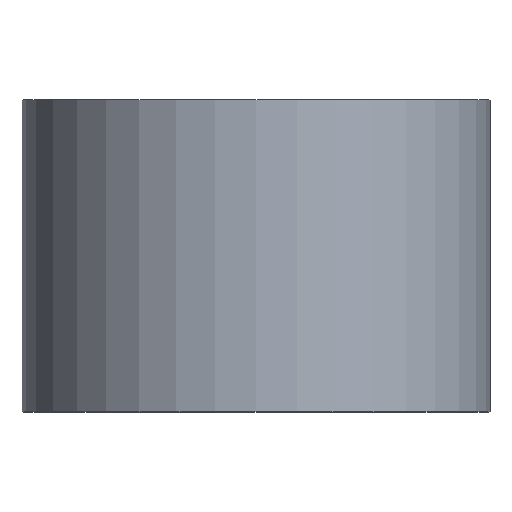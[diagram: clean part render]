
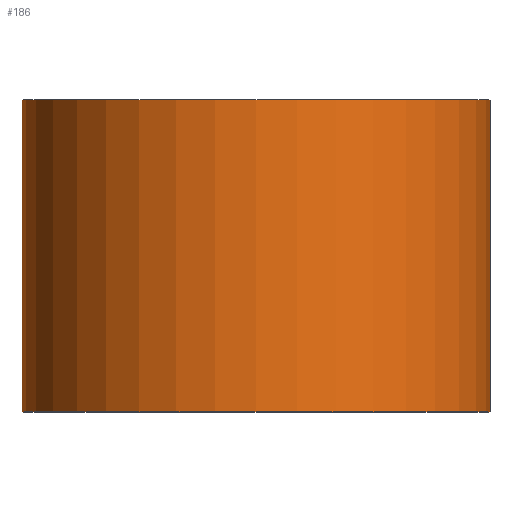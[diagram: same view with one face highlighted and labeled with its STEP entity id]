
A CAD part, top view. The second image highlights one B-rep face of the part: STEP entity #186.
In plain terms, the highlighted cylindrical face has radius 9 mm (diameter 18 mm), a partial arc.
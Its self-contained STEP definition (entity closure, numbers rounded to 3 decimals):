
#2 = EDGE_LOOP ( 'NONE', ( #107, #229, #130, #153 ) ) ;
#5 = LINE ( 'NONE', #268, #265 ) ;
#8 = AXIS2_PLACEMENT_3D ( 'NONE', #124, #99, #263 ) ;
#13 = CARTESIAN_POINT ( 'NONE',  ( 0., 12., 0. ) ) ;
#16 = CARTESIAN_POINT ( 'NONE',  ( 9., 0., 0. ) ) ;
#27 = CIRCLE ( 'NONE', #246, 9. ) ;
#33 = CARTESIAN_POINT ( 'NONE',  ( 0., 0., 0. ) ) ;
#37 = DIRECTION ( 'NONE',  ( -1., 0., 0. ) ) ;
#40 = AXIS2_PLACEMENT_3D ( 'NONE', #33, #242, #80 ) ;
#52 = VECTOR ( 'NONE', #218, 1000. ) ;
#60 = DIRECTION ( 'NONE',  ( 0., 1., 0. ) ) ;
#71 = EDGE_CURVE ( 'NONE', #190, #217, #158, .T. ) ;
#80 = DIRECTION ( 'NONE',  ( -1., 0., 0. ) ) ;
#82 = EDGE_CURVE ( 'NONE', #190, #101, #211, .T. ) ;
#99 = DIRECTION ( 'NONE',  ( 0., 1., 0. ) ) ;
#101 = VERTEX_POINT ( 'NONE', #140 ) ;
#107 = ORIENTED_EDGE ( 'NONE', *, *, #71, .T. ) ;
#124 = CARTESIAN_POINT ( 'NONE',  ( 0., 0., 0. ) ) ;
#130 = ORIENTED_EDGE ( 'NONE', *, *, #138, .F. ) ;
#134 = VERTEX_POINT ( 'NONE', #151 ) ;
#138 = EDGE_CURVE ( 'NONE', #101, #134, #27, .T. ) ;
#140 = CARTESIAN_POINT ( 'NONE',  ( -9., 12., 0. ) ) ;
#151 = CARTESIAN_POINT ( 'NONE',  ( 9., 12., 0. ) ) ;
#153 = ORIENTED_EDGE ( 'NONE', *, *, #82, .F. ) ;
#158 = CIRCLE ( 'NONE', #8, 9. ) ;
#176 = EDGE_CURVE ( 'NONE', #217, #134, #5, .T. ) ;
#186 = ADVANCED_FACE ( 'NONE', ( #288 ), #281, .T. ) ;
#190 = VERTEX_POINT ( 'NONE', #245 ) ;
#211 = LINE ( 'NONE', #238, #52 ) ;
#217 = VERTEX_POINT ( 'NONE', #16 ) ;
#218 = DIRECTION ( 'NONE',  ( 0., 1., 0. ) ) ;
#229 = ORIENTED_EDGE ( 'NONE', *, *, #176, .T. ) ;
#238 = CARTESIAN_POINT ( 'NONE',  ( -9., 0., 0. ) ) ;
#242 = DIRECTION ( 'NONE',  ( 0., 1., 0. ) ) ;
#245 = CARTESIAN_POINT ( 'NONE',  ( -9., 0., 0. ) ) ;
#246 = AXIS2_PLACEMENT_3D ( 'NONE', #13, #262, #37 ) ;
#262 = DIRECTION ( 'NONE',  ( 0., 1., 0. ) ) ;
#263 = DIRECTION ( 'NONE',  ( -1., 0., 0. ) ) ;
#265 = VECTOR ( 'NONE', #60, 1000. ) ;
#268 = CARTESIAN_POINT ( 'NONE',  ( 9., 0., 0. ) ) ;
#281 = CYLINDRICAL_SURFACE ( 'NONE', #40, 9. ) ;
#288 = FACE_OUTER_BOUND ( 'NONE', #2, .T. ) ;
